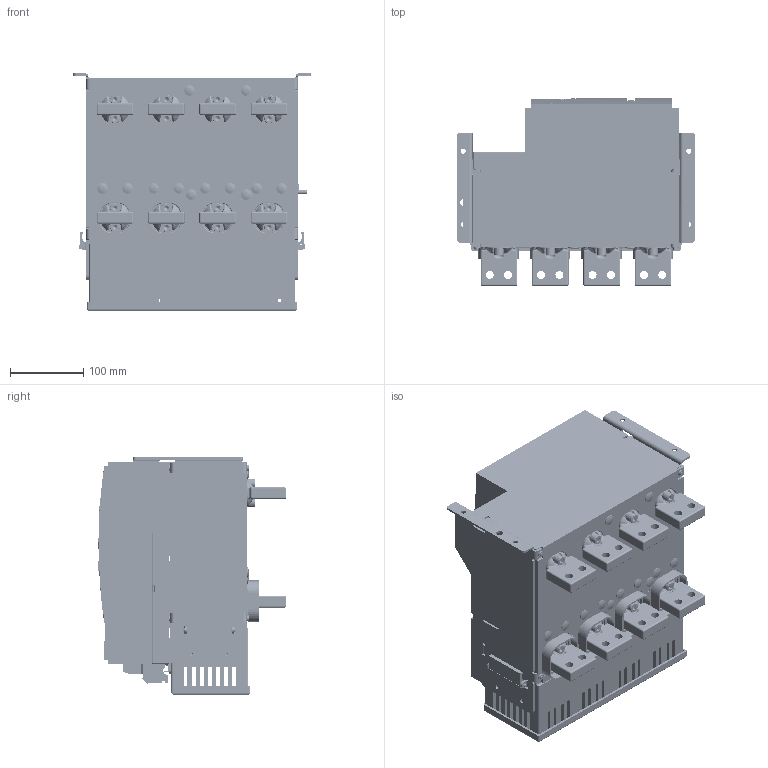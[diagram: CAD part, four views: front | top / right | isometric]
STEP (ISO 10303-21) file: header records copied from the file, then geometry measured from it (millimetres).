
FILE_DESCRIPTION(/* description */ (''),/* implementation_level */ '2;1');
FILE_NAME(/* name */ 'C:/Users/carlos.gonzalez/Documents/ADRIAN_TEMP_DRAWING/Ex9A16_F_4P _Public_PB_Drawing.step',/* time_stamp */ '2021-10-14T12:12:36+02:00',/* author */ (''),/* organization */ (''),/* preprocessor_version */ 'ST-DEVELOPER v18.1',/* originating_system */ 'Autodesk Translation Framework v10.10.0.1391',/* authorisation */ '');
FILE_SCHEMA (('AUTOMOTIVE_DESIGN { 1 0 10303 214 3 1 1 }'));
Products named in the file (390): Ex9A16_F_4P _Public; Ex9A16_4P_F_complete (1); 5024A0203001_ASM_1_ASM_1_ASM (1); 5024A0203001V_1_1 (1); 8940A0411002_1_1 (1); 8940A0411001_1_1 (1); GBT809-M4X8-B_1_1 (1); GBT809-M3X8-B_1_1 (1); GBT809-M6X12-B_1_1 (1); 6760A15260011_ASM_1_ASM_1_ASM (1); 5050A1526005_ASM_1_ASM_1_ASM (1); 5050A1516005_ASM_1_ASM_1_ASM (1); 5050A1526006_ASM_1_ASM_1_ASM (1); 5050A1516006_ASM_1_ASM_1_ASM (1); 5263A1526002_AF0_ASM_1_ASM_1_ASM (1); 5263A1526002_AF1_ASM_1_ASM_1_ASM (1); 5253A1526001_ASM_1_ASM_1_ASM (1); 5253A0101001_ASM_1_ASM_1_ASM (1); 5253A0101001V_1_1 (1); 5200A15270011_ASM_1_ASM_1_ASM (1); 5135A1516002_ASM_1_ASM_1_ASM (1); GBT818-M6X45_1_1 (1); GBT818-M5X18_1_1 (1); GBT818-M5X25_1_1 (1); GBT848-6_1_1 (1); GBT7244-6_1_1 (1); GBT818-M6X30_1_1 (1); SMARTUNIT_ASM_1_ASM_1_ASM (1); 5043A0101001_ASM_1_ASM_1_ASM (1); 5043A0101001_1_1 (1); AM4X10_GB809_1_1 (1); 8005A0101008_1_1 (1); 8320A0101004_1_1 (1); 8860A1424009_1_1 (1); 8253A0101008_1_1 (1); 5024A0101001_ASM_1_ASM_1_ASM (1); GB809-M4X4_1_1 (1); 8860A1424007_1_1 (1); C-COM_1_1 (1); GBT818-M3X12_1_1 (1)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
Assembly tree (685 placements, depth 6):
  Ex9A16_F_4P _Public
    Ex9A16_4P_F_complete (1)
      5024A0203001_ASM_1_ASM_1_ASM (1)
        5024A0203001V_1_1 (1)
        8940A0411002_1_1 (1)  x5
        8940A0411001_1_1 (1)  x2
        GBT809-M4X8-B_1_1 (1)  x3
        GBT809-M3X8-B_1_1 (1)  x7
        GBT809-M6X12-B_1_1 (1)  x4
      6760A15260011_ASM_1_ASM_1_ASM (1)
        5050A1526005_ASM_1_ASM_1_ASM (1)
          5050A1516005_ASM_1_ASM_1_ASM (1)
        5050A1526006_ASM_1_ASM_1_ASM (1)
          5050A1516006_ASM_1_ASM_1_ASM (1)
        5263A1526002_AF0_ASM_1_ASM_1_ASM (1)
        5263A1526002_AF1_ASM_1_ASM_1_ASM (1)
        5253A1526001_ASM_1_ASM_1_ASM (1)
          5253A0101001_ASM_1_ASM_1_ASM (1)
            5253A0101001V_1_1 (1)
        5200A15270011_ASM_1_ASM_1_ASM (1)
          5135A1516002_ASM_1_ASM_1_ASM (1)
      GBT848-6_1_1 (1)  x6
      GBT7244-6_1_1 (1)  x6
      GBT818-M6X45_1_1 (1)  x4
      GBT848-5_1_1 (1)  x7
      GBT93-5_1_1 (1)  x6
      GBT818-M5X18_1_1 (1)
      GBT818-M5X25_1_1 (1)
      GBT818-M6X30_1_1 (1)  x2
      SMARTUNIT_ASM_1_ASM_1_ASM (1)
        5043A0101001_ASM_1_ASM_1_ASM (1)
          5043A0101001_1_1 (1)
          AM4X10_GB809_1_1 (1)
        8005A0101008_1_1 (1)
        8320A0101004_1_1 (1)
        8860A1424009_1_1 (1)
        8253A0101008_1_1 (1)
        5024A0101001_ASM_1_ASM_1_ASM (1)
          GB809-M4X4_1_1 (1)  x2
        8860A1424007_1_1 (1)
        C-COM_1_1 (1)
      GBT848-3_1_1 (1)  x5
      GBT93-3_1_1 (1)  x5
      GBT818-M3X8_1_1 (1)  x4
      GBT818-M3X12_1_1 (1)
      GBT845-ST4_2X16C_1_1 (1)
      GBT845-ST4_2X13C_1_1 (1)
      5024A15260011_ASM_1_ASM_1_ASM (1)
        8024A0203001_1_1 (1)
        GBT97_1-5_1_1 (1)  x8
        GBT93-5_1_1 (1)  x8
        GBT818-M5X14_1_1 (1)  x8
      5315A1516001_ASM_1_ASM_1_ASM (1)
      GBT848-4_1_1 (1)
      GBT93-4_1_1 (1)
      GBT818-M4X12_1_1 (1)
      8320A0101001_1_1 (1)  x12
      5205A1501001_ASM_1_ASM_1_ASM (1)
        5205A1501001V_1_ASM_1_ASM (1)
          5205A1501001V_1_1_1 (1)
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Bounding box: 324 x 256.12 x 323 mm (x, y, z)
Volume: 4871928.4 mm3; surface area: 2025279.9 mm2
Topology: 368 solids, 469 shells, 17345 faces, 46444 edges, 30311 vertices
Faces by surface type: plane 11738, cylinder 4351, bspline 514, cone 377, torus 227, sphere 138
Full cylindrical faces by diameter (mm): 1 x2, 2 x9, 2.1 x5, 2.2 x1, 2.4 x5, 2.459 x12, 3 x45, 3.1 x2, 3.2 x5, 3.242 x21, 3.4 x4, 3.5 x5, 4 x52, 4.134 x16, 4.2 x8, 4.3 x4, 4.5 x19, 4.9 x2, 4.917 x10, 5 x104, 5.1 x4, 5.3 x9, 5.5 x20, 5.8 x1, 6 x95, 6.4 x6, 6.5 x13, 6.647 x16, 7 x8, 8 x29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
Entity records: 205754 total; most frequent: CARTESIAN_POINT 54257, DIRECTION 30784, ORIENTED_EDGE 29834, EDGE_CURVE 14968, LINE 10612, VECTOR 10612, AXIS2_PLACEMENT_3D 10086, VERTEX_POINT 9802
